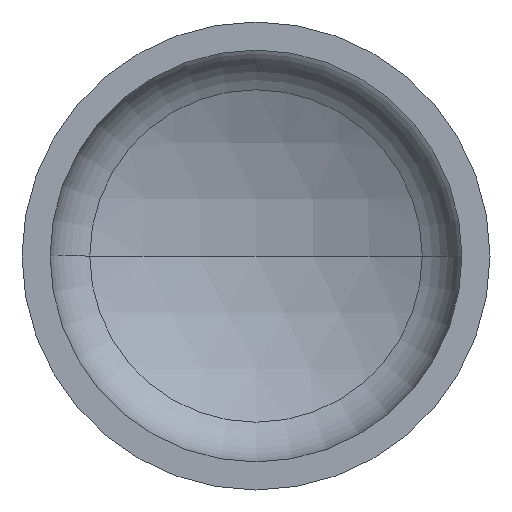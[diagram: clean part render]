
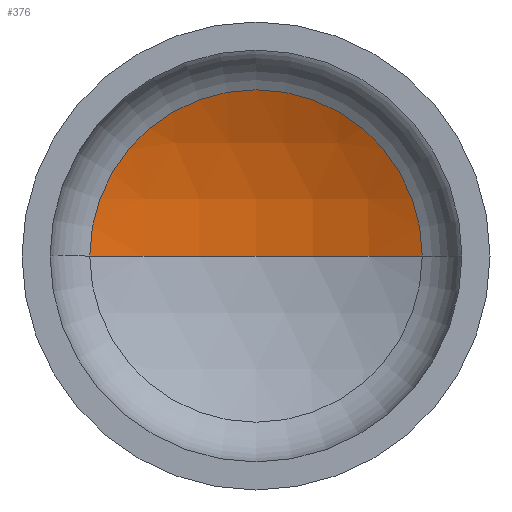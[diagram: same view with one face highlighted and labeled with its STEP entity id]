
A CAD part, front view. The second image highlights one B-rep face of the part: STEP entity #376.
In plain terms, the highlighted spherical face has radius 1520 mm.
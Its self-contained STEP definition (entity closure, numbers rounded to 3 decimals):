
#5 = DIRECTION ( 'NONE',  ( 1., 0., 0. ) ) ;
#22 = EDGE_LOOP ( 'NONE', ( #370, #102, #51 ) ) ;
#29 = DIRECTION ( 'NONE',  ( 0., 0., -1. ) ) ;
#39 = VERTEX_POINT ( 'NONE', #250 ) ;
#40 = VERTEX_POINT ( 'NONE', #239 ) ;
#41 = CARTESIAN_POINT ( 'NONE',  ( 0., -1027.172, 0. ) ) ;
#44 = AXIS2_PLACEMENT_3D ( 'NONE', #170, #336, #183 ) ;
#48 = AXIS2_PLACEMENT_3D ( 'NONE', #41, #29, #200 ) ;
#49 = AXIS2_PLACEMENT_3D ( 'NONE', #247, #404, #5 ) ;
#51 = ORIENTED_EDGE ( 'NONE', *, *, #116, .T. ) ;
#97 = VERTEX_POINT ( 'NONE', #216 ) ;
#102 = ORIENTED_EDGE ( 'NONE', *, *, #122, .T. ) ;
#116 = EDGE_CURVE ( 'NONE', #97, #40, #280, .T. ) ;
#122 = EDGE_CURVE ( 'NONE', #39, #97, #222, .T. ) ;
#125 = EDGE_CURVE ( 'NONE', #39, #40, #152, .T. ) ;
#152 = CIRCLE ( 'NONE', #44, 1520. ) ;
#170 = CARTESIAN_POINT ( 'NONE',  ( 0., -1027.172, 0. ) ) ;
#173 = FACE_OUTER_BOUND ( 'NONE', #22, .T. ) ;
#183 = DIRECTION ( 'NONE',  ( 1., 0., 0. ) ) ;
#196 = DIRECTION ( 'NONE',  ( 0., 0., -1. ) ) ;
#200 = DIRECTION ( 'NONE',  ( -1., 0., 0. ) ) ;
#216 = CARTESIAN_POINT ( 'NONE',  ( 674.732, 334.862, 0. ) ) ;
#222 = CIRCLE ( 'NONE', #48, 1520. ) ;
#239 = CARTESIAN_POINT ( 'NONE',  ( -674.732, 334.862, 0. ) ) ;
#247 = CARTESIAN_POINT ( 'NONE',  ( 0., 334.862, 0. ) ) ;
#250 = CARTESIAN_POINT ( 'NONE',  ( 0., 492.828, 0. ) ) ;
#280 = CIRCLE ( 'NONE', #49, 674.732 ) ;
#317 = DIRECTION ( 'NONE',  ( -1., 0., 0. ) ) ;
#336 = DIRECTION ( 'NONE',  ( 0., 0., 1. ) ) ;
#351 = AXIS2_PLACEMENT_3D ( 'NONE', #369, #196, #317 ) ;
#357 = SPHERICAL_SURFACE ( 'NONE', #351, 1520. ) ;
#369 = CARTESIAN_POINT ( 'NONE',  ( 0., -1027.172, 0. ) ) ;
#370 = ORIENTED_EDGE ( 'NONE', *, *, #125, .F. ) ;
#376 = ADVANCED_FACE ( 'NONE', ( #173 ), #357, .F. ) ;
#404 = DIRECTION ( 'NONE',  ( 0., -1., 0. ) ) ;
